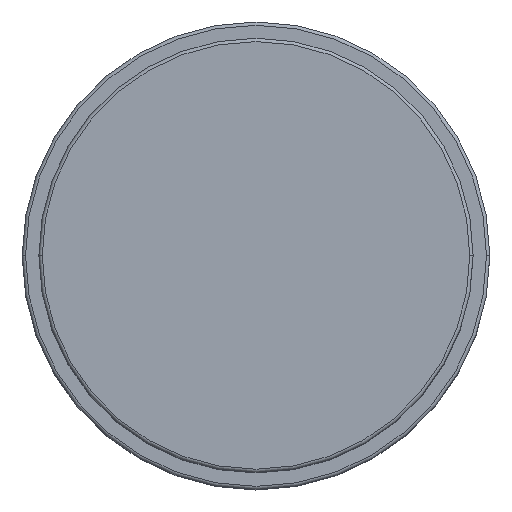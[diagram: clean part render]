
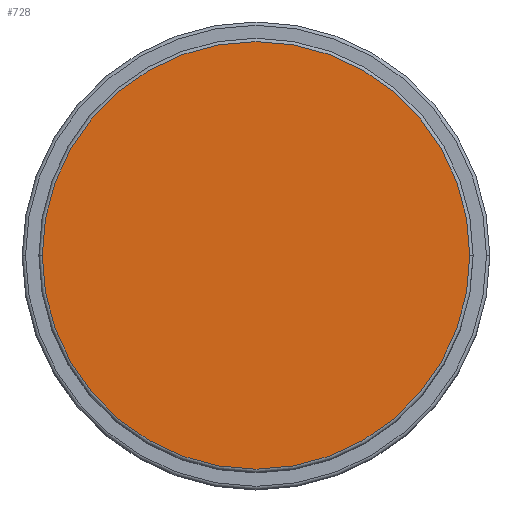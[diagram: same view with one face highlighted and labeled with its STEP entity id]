
A CAD part, top view. The second image highlights one B-rep face of the part: STEP entity #728.
In plain terms, the highlighted planar face has unit normal (0, 0, 1).
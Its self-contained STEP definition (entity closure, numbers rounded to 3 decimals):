
#38 = CARTESIAN_POINT ( 'NONE',  ( 0., 0., 67. ) ) ;
#96 = PLANE ( 'NONE',  #1158 ) ;
#112 = VERTEX_POINT ( 'NONE', #622 ) ;
#148 = AXIS2_PLACEMENT_3D ( 'NONE', #38, #675, #534 ) ;
#205 = EDGE_CURVE ( 'NONE', #112, #1546, #1078, .T. ) ;
#311 = EDGE_LOOP ( 'NONE', ( #684, #777 ) ) ;
#334 = CARTESIAN_POINT ( 'NONE',  ( 0., 0., 67. ) ) ;
#359 = DIRECTION ( 'NONE',  ( 1., 0., 0. ) ) ;
#534 = DIRECTION ( 'NONE',  ( 1., 0., 0. ) ) ;
#622 = CARTESIAN_POINT ( 'NONE',  ( 32., 0., 67. ) ) ;
#675 = DIRECTION ( 'NONE',  ( 0., 0., 1. ) ) ;
#684 = ORIENTED_EDGE ( 'NONE', *, *, #205, .T. ) ;
#704 = DIRECTION ( 'NONE',  ( 1., 0., 0. ) ) ;
#728 = ADVANCED_FACE ( 'NONE', ( #812 ), #96, .T. ) ;
#777 = ORIENTED_EDGE ( 'NONE', *, *, #1566, .T. ) ;
#812 = FACE_OUTER_BOUND ( 'NONE', #311, .T. ) ;
#1078 = CIRCLE ( 'NONE', #1235, 32. ) ;
#1147 = CARTESIAN_POINT ( 'NONE',  ( 0., 0., 67. ) ) ;
#1158 = AXIS2_PLACEMENT_3D ( 'NONE', #1147, #1640, #359 ) ;
#1235 = AXIS2_PLACEMENT_3D ( 'NONE', #334, #1348, #704 ) ;
#1321 = CARTESIAN_POINT ( 'NONE',  ( -32., 0., 67. ) ) ;
#1348 = DIRECTION ( 'NONE',  ( 0., 0., 1. ) ) ;
#1354 = CIRCLE ( 'NONE', #148, 32. ) ;
#1546 = VERTEX_POINT ( 'NONE', #1321 ) ;
#1566 = EDGE_CURVE ( 'NONE', #1546, #112, #1354, .T. ) ;
#1640 = DIRECTION ( 'NONE',  ( 0., 0., 1. ) ) ;
